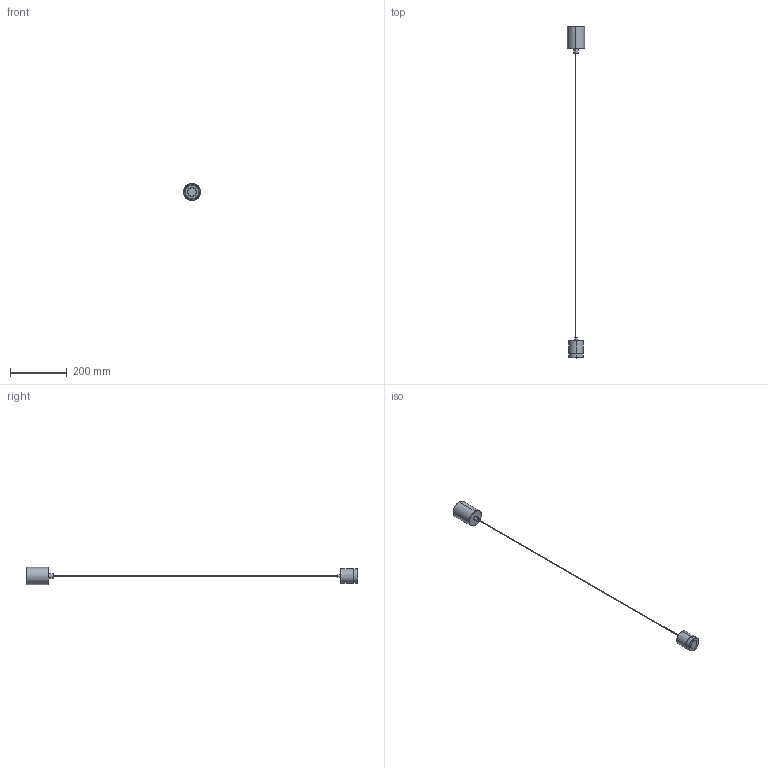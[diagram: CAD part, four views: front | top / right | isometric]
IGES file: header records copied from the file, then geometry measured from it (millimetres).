
Start section: SolidWorks IGES file using analytic representation for surfaces
Global section: file name: C:\Users\Agustin\Desktop\ENERO 2025\2D-3D\2D-3D TEA_1337\TEA_C1337\TEA_C1337.IGS; native system: SolidWorks 2018; preprocessor: SolidWorks 2018; author: Agustin; date: 250117.154109; units: millimetre
Bounding box: 60 x 1165.2 x 60 mm (x, y, z)
Surface area: 55505.3 mm2 (no closed solid volume)
Topology: 0 solids, 0 shells, 39 faces, 928 edges, 928 vertices
Faces by surface type: bspline 23, revolution 16
